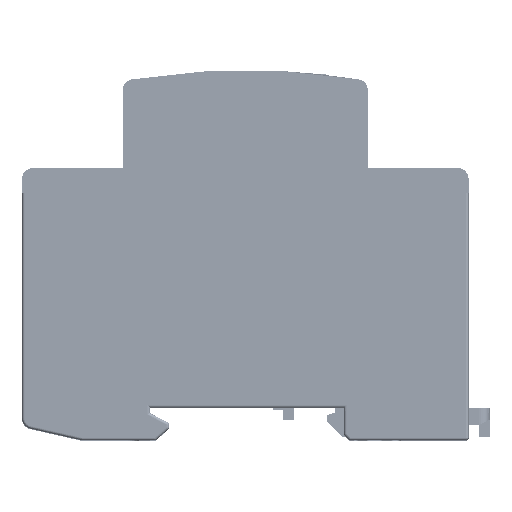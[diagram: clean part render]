
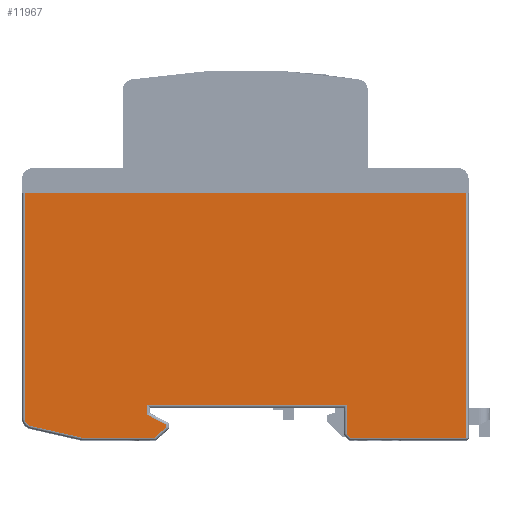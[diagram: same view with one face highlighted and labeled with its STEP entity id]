
A CAD part, top view. The second image highlights one B-rep face of the part: STEP entity #11967.
In plain terms, the highlighted planar face has unit normal (0, 0, 1).
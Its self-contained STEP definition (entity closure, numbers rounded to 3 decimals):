
#267 = VERTEX_POINT ( 'NONE', #79371 ) ;
#652 = AXIS2_PLACEMENT_3D ( 'NONE', #60742, #7685, #54155 ) ;
#1422 = VERTEX_POINT ( 'NONE', #63050 ) ;
#5712 = LINE ( 'NONE', #59195, #69194 ) ;
#7166 = CARTESIAN_POINT ( 'NONE',  ( 18.6, -4.793, 27. ) ) ;
#7685 = DIRECTION ( 'NONE',  ( 0., 0., 1. ) ) ;
#7942 = DIRECTION ( 'NONE',  ( 1., 0., 0. ) ) ;
#10495 = ORIENTED_EDGE ( 'NONE', *, *, #53232, .T. ) ;
#11009 = DIRECTION ( 'NONE',  ( 1., 0., 0. ) ) ;
#11394 = CARTESIAN_POINT ( 'NONE',  ( 18.6, -4.793, 27. ) ) ;
#11967 = ADVANCED_FACE ( 'NONE', ( #32111 ), #46983, .T. ) ;
#12000 = ORIENTED_EDGE ( 'NONE', *, *, #62910, .T. ) ;
#15319 = VERTEX_POINT ( 'NONE', #77649 ) ;
#17480 = ORIENTED_EDGE ( 'NONE', *, *, #17640, .T. ) ;
#17640 = EDGE_CURVE ( 'NONE', #36702, #65699, #86223, .T. ) ;
#19377 = DIRECTION ( 'NONE',  ( 0., 0., 1. ) ) ;
#22484 = DIRECTION ( 'NONE',  ( 0., 1., 0. ) ) ;
#24176 = LINE ( 'NONE', #77616, #78623 ) ;
#24366 = VECTOR ( 'NONE', #7942, 1000. ) ;
#25853 = CARTESIAN_POINT ( 'NONE',  ( -41.712, -2.826, 27. ) ) ;
#28122 = LINE ( 'NONE', #56172, #34042 ) ;
#28482 = ORIENTED_EDGE ( 'NONE', *, *, #79110, .T. ) ;
#29126 = ORIENTED_EDGE ( 'NONE', *, *, #33211, .T. ) ;
#30194 = CARTESIAN_POINT ( 'NONE',  ( 19.307, -5.5, 27. ) ) ;
#32111 = FACE_OUTER_BOUND ( 'NONE', #32496, .T. ) ;
#32496 = EDGE_LOOP ( 'NONE', ( #44315, #57894, #38361, #68922, #64816, #79279, #83429, #32927, #10495, #48766, #17480, #29126, #12000, #28482 ) ) ;
#32927 = ORIENTED_EDGE ( 'NONE', *, *, #66723, .T. ) ;
#33211 = EDGE_CURVE ( 'NONE', #65699, #82861, #28122, .T. ) ;
#33688 = CARTESIAN_POINT ( 'NONE',  ( -14.498, -6.91, 27. ) ) ;
#34042 = VECTOR ( 'NONE', #54861, 1000. ) ;
#34168 = EDGE_CURVE ( 'NONE', #1422, #53440, #67990, .T. ) ;
#36473 = EDGE_CURVE ( 'NONE', #48546, #15319, #5712, .T. ) ;
#36702 = VERTEX_POINT ( 'NONE', #47104 ) ;
#37079 = CARTESIAN_POINT ( 'NONE',  ( -35.213, 7.541, 27. ) ) ;
#38361 = ORIENTED_EDGE ( 'NONE', *, *, #55820, .T. ) ;
#38516 = VECTOR ( 'NONE', #22484, 1000. ) ;
#39439 = LINE ( 'NONE', #11394, #82971 ) ;
#40124 = VERTEX_POINT ( 'NONE', #7166 ) ;
#40661 = DIRECTION ( 'NONE',  ( 0., 1., 0. ) ) ;
#41348 = VERTEX_POINT ( 'NONE', #77447 ) ;
#43507 = LINE ( 'NONE', #82481, #38516 ) ;
#43683 = LINE ( 'NONE', #53700, #74584 ) ;
#44315 = ORIENTED_EDGE ( 'NONE', *, *, #58752, .T. ) ;
#45054 = VECTOR ( 'NONE', #52590, 1000. ) ;
#45849 = DIRECTION ( 'NONE',  ( 0.751, 0.661, 0. ) ) ;
#45918 = VECTOR ( 'NONE', #53852, 1000. ) ;
#46453 = DIRECTION ( 'NONE',  ( 0., -1., 0. ) ) ;
#46553 = CARTESIAN_POINT ( 'NONE',  ( -42.64, -5.5, 27. ) ) ;
#46983 = PLANE ( 'NONE',  #51827 ) ;
#47104 = CARTESIAN_POINT ( 'NONE',  ( -18., -1.305, 27. ) ) ;
#48176 = LINE ( 'NONE', #48613, #62249 ) ;
#48464 = CARTESIAN_POINT ( 'NONE',  ( 40.5, -5.5, 27. ) ) ;
#48546 = VERTEX_POINT ( 'NONE', #59322 ) ;
#48613 = CARTESIAN_POINT ( 'NONE',  ( -10.961, 24.769, 27. ) ) ;
#48766 = ORIENTED_EDGE ( 'NONE', *, *, #68697, .T. ) ;
#51533 = DIRECTION ( 'NONE',  ( -0.889, 0.457, 0. ) ) ;
#51827 = AXIS2_PLACEMENT_3D ( 'NONE', #66688, #19377, #52708 ) ;
#52428 = VECTOR ( 'NONE', #51533, 1000. ) ;
#52572 = VERTEX_POINT ( 'NONE', #48464 ) ;
#52590 = DIRECTION ( 'NONE',  ( 0.975, -0.222, 0. ) ) ;
#52708 = DIRECTION ( 'NONE',  ( 1., 0., 0. ) ) ;
#53028 = DIRECTION ( 'NONE',  ( 0., -1., 0. ) ) ;
#53232 = EDGE_CURVE ( 'NONE', #63721, #67929, #66556, .T. ) ;
#53440 = VERTEX_POINT ( 'NONE', #66039 ) ;
#53700 = CARTESIAN_POINT ( 'NONE',  ( -32.011, -18.987, 27. ) ) ;
#53852 = DIRECTION ( 'NONE',  ( 0., 1., 0. ) ) ;
#54155 = DIRECTION ( 'NONE',  ( 1., 0., 0. ) ) ;
#54734 = CARTESIAN_POINT ( 'NONE',  ( -14.498, -3.105, 27. ) ) ;
#54861 = DIRECTION ( 'NONE',  ( 1., 0., 0. ) ) ;
#54934 = CARTESIAN_POINT ( 'NONE',  ( 0., 39.5, 27. ) ) ;
#55820 = EDGE_CURVE ( 'NONE', #267, #48546, #61528, .T. ) ;
#56172 = CARTESIAN_POINT ( 'NONE',  ( 18.1, 0.5, 27. ) ) ;
#57894 = ORIENTED_EDGE ( 'NONE', *, *, #82647, .T. ) ;
#58752 = EDGE_CURVE ( 'NONE', #72490, #52572, #24176, .T. ) ;
#59195 = CARTESIAN_POINT ( 'NONE',  ( -40.5, -6.91, 27. ) ) ;
#59322 = CARTESIAN_POINT ( 'NONE',  ( -40.5, 39.5, 27. ) ) ;
#60742 = CARTESIAN_POINT ( 'NONE',  ( -39., -1.904, 27. ) ) ;
#61528 = LINE ( 'NONE', #54934, #85090 ) ;
#62239 = CIRCLE ( 'NONE', #652, 1.5 ) ;
#62249 = VECTOR ( 'NONE', #67883, 1000. ) ;
#62910 = EDGE_CURVE ( 'NONE', #82861, #40124, #39439, .T. ) ;
#63050 = CARTESIAN_POINT ( 'NONE',  ( -29.941, -5.5, 27. ) ) ;
#63721 = VERTEX_POINT ( 'NONE', #71016 ) ;
#64816 = ORIENTED_EDGE ( 'NONE', *, *, #82049, .T. ) ;
#65699 = VERTEX_POINT ( 'NONE', #76736 ) ;
#66039 = CARTESIAN_POINT ( 'NONE',  ( -16.686, -5.5, 27. ) ) ;
#66236 = CARTESIAN_POINT ( 'NONE',  ( 18.6, 0.5, 27. ) ) ;
#66556 = LINE ( 'NONE', #33688, #45918 ) ;
#66688 = CARTESIAN_POINT ( 'NONE',  ( -42.64, -6.91, 27. ) ) ;
#66723 = EDGE_CURVE ( 'NONE', #53440, #63721, #43683, .T. ) ;
#67883 = DIRECTION ( 'NONE',  ( 0.707, -0.707, 0. ) ) ;
#67929 = VERTEX_POINT ( 'NONE', #54734 ) ;
#67990 = LINE ( 'NONE', #46553, #24366 ) ;
#68697 = EDGE_CURVE ( 'NONE', #67929, #36702, #77800, .T. ) ;
#68922 = ORIENTED_EDGE ( 'NONE', *, *, #36473, .T. ) ;
#69194 = VECTOR ( 'NONE', #46453, 1000. ) ;
#71016 = CARTESIAN_POINT ( 'NONE',  ( -14.498, -3.574, 27. ) ) ;
#71850 = LINE ( 'NONE', #25853, #45054 ) ;
#72490 = VERTEX_POINT ( 'NONE', #30194 ) ;
#74584 = VECTOR ( 'NONE', #45849, 1000. ) ;
#75236 = CARTESIAN_POINT ( 'NONE',  ( -18., -6.91, 27. ) ) ;
#75321 = EDGE_CURVE ( 'NONE', #41348, #1422, #71850, .T. ) ;
#76736 = CARTESIAN_POINT ( 'NONE',  ( -18., 0.5, 27. ) ) ;
#77447 = CARTESIAN_POINT ( 'NONE',  ( -39.332, -3.366, 27. ) ) ;
#77616 = CARTESIAN_POINT ( 'NONE',  ( -42.64, -5.5, 27. ) ) ;
#77649 = CARTESIAN_POINT ( 'NONE',  ( -40.5, -1.904, 27. ) ) ;
#77800 = LINE ( 'NONE', #37079, #52428 ) ;
#78623 = VECTOR ( 'NONE', #11009, 1000. ) ;
#79110 = EDGE_CURVE ( 'NONE', #40124, #72490, #48176, .T. ) ;
#79279 = ORIENTED_EDGE ( 'NONE', *, *, #75321, .T. ) ;
#79371 = CARTESIAN_POINT ( 'NONE',  ( 40.5, 39.5, 27. ) ) ;
#81642 = DIRECTION ( 'NONE',  ( -1., 0., 0. ) ) ;
#82049 = EDGE_CURVE ( 'NONE', #15319, #41348, #62239, .T. ) ;
#82481 = CARTESIAN_POINT ( 'NONE',  ( 40.5, -6.91, 27. ) ) ;
#82647 = EDGE_CURVE ( 'NONE', #52572, #267, #43507, .T. ) ;
#82861 = VERTEX_POINT ( 'NONE', #66236 ) ;
#82971 = VECTOR ( 'NONE', #53028, 1000. ) ;
#83429 = ORIENTED_EDGE ( 'NONE', *, *, #34168, .T. ) ;
#84952 = VECTOR ( 'NONE', #40661, 1000. ) ;
#85090 = VECTOR ( 'NONE', #81642, 1000. ) ;
#86223 = LINE ( 'NONE', #75236, #84952 ) ;
